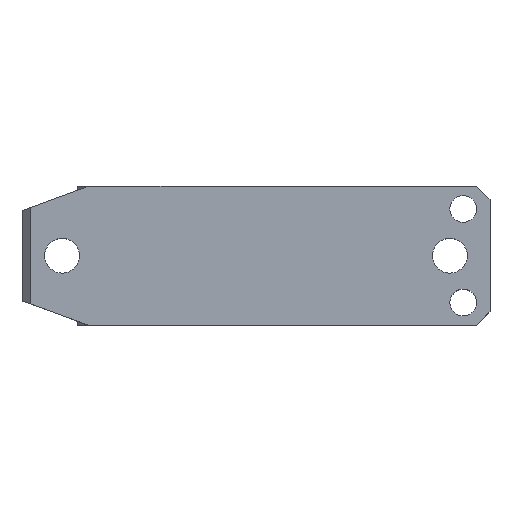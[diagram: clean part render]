
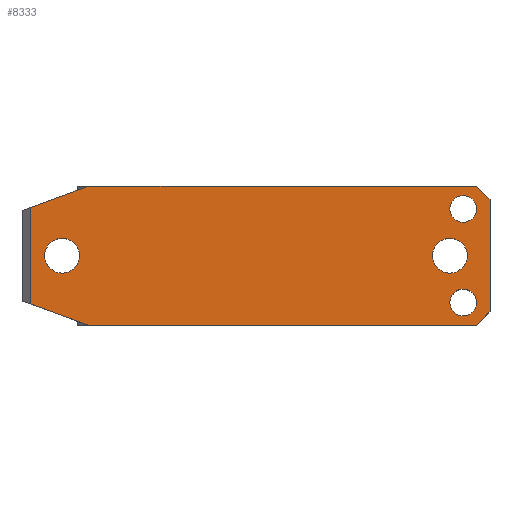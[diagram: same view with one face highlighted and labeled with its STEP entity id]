
A CAD part, top view. The second image highlights one B-rep face of the part: STEP entity #8333.
In plain terms, the highlighted planar face has unit normal (0, 0, 1).
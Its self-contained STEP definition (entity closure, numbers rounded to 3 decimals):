
#19 = AXIS2_PLACEMENT_3D ( 'NONE', #5022, #11493, #5943 ) ;
#110 = VECTOR ( 'NONE', #5182, 1000. ) ;
#216 = CARTESIAN_POINT ( 'NONE',  ( 120., 17.5, 125. ) ) ;
#268 = VERTEX_POINT ( 'NONE', #2168 ) ;
#306 = FACE_BOUND ( 'NONE', #6911, .T. ) ;
#432 = LINE ( 'NONE', #3103, #10012 ) ;
#491 = CARTESIAN_POINT ( 'NONE',  ( -45., -26., 125. ) ) ;
#512 = ORIENTED_EDGE ( 'NONE', *, *, #2707, .T. ) ;
#645 = DIRECTION ( 'NONE',  ( 0., 0., -1. ) ) ;
#647 = EDGE_CURVE ( 'NONE', #2259, #10758, #2572, .T. ) ;
#654 = DIRECTION ( 'NONE',  ( -1., 0., 0. ) ) ;
#784 = AXIS2_PLACEMENT_3D ( 'NONE', #6522, #983, #7454 ) ;
#798 = ORIENTED_EDGE ( 'NONE', *, *, #10223, .F. ) ;
#938 = AXIS2_PLACEMENT_3D ( 'NONE', #3236, #9710, #4153 ) ;
#983 = DIRECTION ( 'NONE',  ( 0., 0., -1. ) ) ;
#1076 = VERTEX_POINT ( 'NONE', #6250 ) ;
#1111 = EDGE_CURVE ( 'NONE', #2904, #6317, #7776, .T. ) ;
#1153 = DIRECTION ( 'NONE',  ( -1., 0., 0. ) ) ;
#1209 = ORIENTED_EDGE ( 'NONE', *, *, #8557, .F. ) ;
#1377 = EDGE_CURVE ( 'NONE', #7714, #10792, #9522, .T. ) ;
#1444 = CARTESIAN_POINT ( 'NONE',  ( 130., 26., 125. ) ) ;
#1495 = AXIS2_PLACEMENT_3D ( 'NONE', #11756, #6208, #654 ) ;
#1511 = CARTESIAN_POINT ( 'NONE',  ( 130., -21., 125. ) ) ;
#1555 = DIRECTION ( 'NONE',  ( 0., 0., -1. ) ) ;
#1866 = ORIENTED_EDGE ( 'NONE', *, *, #2166, .T. ) ;
#2151 = AXIS2_PLACEMENT_3D ( 'NONE', #216, #6675, #1153 ) ;
#2156 = CARTESIAN_POINT ( 'NONE',  ( -23.5, 0., 125. ) ) ;
#2166 = EDGE_CURVE ( 'NONE', #10157, #10005, #3265, .T. ) ;
#2168 = CARTESIAN_POINT ( 'NONE',  ( -36.5, 0., 125. ) ) ;
#2259 = VERTEX_POINT ( 'NONE', #4249 ) ;
#2281 = LINE ( 'NONE', #3849, #4774 ) ;
#2289 = CARTESIAN_POINT ( 'NONE',  ( 125., 26., 125. ) ) ;
#2330 = CARTESIAN_POINT ( 'NONE',  ( -42., 26., 125. ) ) ;
#2572 = LINE ( 'NONE', #491, #110 ) ;
#2601 = EDGE_CURVE ( 'NONE', #10222, #4778, #4720, .T. ) ;
#2602 = VERTEX_POINT ( 'NONE', #6970 ) ;
#2707 = EDGE_CURVE ( 'NONE', #2602, #1076, #10645, .T. ) ;
#2779 = FACE_BOUND ( 'NONE', #9905, .T. ) ;
#2904 = VERTEX_POINT ( 'NONE', #6488 ) ;
#2987 = CARTESIAN_POINT ( 'NONE',  ( 125., 17.5, 125. ) ) ;
#3103 = CARTESIAN_POINT ( 'NONE',  ( -45., -16.901, 125. ) ) ;
#3132 = ORIENTED_EDGE ( 'NONE', *, *, #6917, .T. ) ;
#3236 = CARTESIAN_POINT ( 'NONE',  ( 120., -17.5, 125. ) ) ;
#3265 = LINE ( 'NONE', #2330, #5738 ) ;
#3385 = ORIENTED_EDGE ( 'NONE', *, *, #1377, .T. ) ;
#3469 = AXIS2_PLACEMENT_3D ( 'NONE', #6201, #645, #7114 ) ;
#3512 = VECTOR ( 'NONE', #4801, 1000. ) ;
#3593 = DIRECTION ( 'NONE',  ( 0., 0., -1. ) ) ;
#3599 = CARTESIAN_POINT ( 'NONE',  ( -20., 26., 125. ) ) ;
#3849 = CARTESIAN_POINT ( 'NONE',  ( 125., 26., 125. ) ) ;
#3922 = CARTESIAN_POINT ( 'NONE',  ( 125., -26., 125. ) ) ;
#4028 = DIRECTION ( 'NONE',  ( -0.94, 0.342, 0. ) ) ;
#4153 = DIRECTION ( 'NONE',  ( -1., 0., 0. ) ) ;
#4193 = ORIENTED_EDGE ( 'NONE', *, *, #4212, .T. ) ;
#4212 = EDGE_CURVE ( 'NONE', #1076, #2602, #9739, .T. ) ;
#4249 = CARTESIAN_POINT ( 'NONE',  ( -20., -26., 125. ) ) ;
#4280 = DIRECTION ( 'NONE',  ( -0.707, -0.707, 0. ) ) ;
#4350 = PLANE ( 'NONE',  #11569 ) ;
#4446 = DIRECTION ( 'NONE',  ( 0., 0., -1. ) ) ;
#4720 = LINE ( 'NONE', #1444, #11228 ) ;
#4726 = ORIENTED_EDGE ( 'NONE', *, *, #2601, .F. ) ;
#4774 = VECTOR ( 'NONE', #5710, 1000. ) ;
#4778 = VERTEX_POINT ( 'NONE', #1511 ) ;
#4779 = CARTESIAN_POINT ( 'NONE',  ( 130., 21., 125. ) ) ;
#4784 = CIRCLE ( 'NONE', #19, 6.5 ) ;
#4801 = DIRECTION ( 'NONE',  ( 0.94, 0.342, 0. ) ) ;
#5022 = CARTESIAN_POINT ( 'NONE',  ( -30., 0., 125. ) ) ;
#5108 = VERTEX_POINT ( 'NONE', #3599 ) ;
#5182 = DIRECTION ( 'NONE',  ( 1., 0., 0. ) ) ;
#5249 = FACE_OUTER_BOUND ( 'NONE', #9526, .T. ) ;
#5299 = CARTESIAN_POINT ( 'NONE',  ( -42., -17.993, 125. ) ) ;
#5356 = AXIS2_PLACEMENT_3D ( 'NONE', #9983, #4446, #10916 ) ;
#5435 = CARTESIAN_POINT ( 'NONE',  ( -45., 26., 125. ) ) ;
#5710 = DIRECTION ( 'NONE',  ( 0.707, -0.707, 0. ) ) ;
#5738 = VECTOR ( 'NONE', #8819, 1000. ) ;
#5807 = EDGE_CURVE ( 'NONE', #5108, #6410, #7653, .T. ) ;
#5943 = DIRECTION ( 'NONE',  ( -1., 0., 0. ) ) ;
#6116 = AXIS2_PLACEMENT_3D ( 'NONE', #9135, #3593, #10057 ) ;
#6158 = EDGE_LOOP ( 'NONE', ( #10708, #9594 ) ) ;
#6201 = CARTESIAN_POINT ( 'NONE',  ( 120., 17.5, 125. ) ) ;
#6208 = DIRECTION ( 'NONE',  ( 0., 0., -1. ) ) ;
#6244 = LINE ( 'NONE', #7574, #3512 ) ;
#6250 = CARTESIAN_POINT ( 'NONE',  ( 121.5, 0., 125. ) ) ;
#6317 = VERTEX_POINT ( 'NONE', #11005 ) ;
#6362 = DIRECTION ( 'NONE',  ( -1., 0., 0. ) ) ;
#6410 = VERTEX_POINT ( 'NONE', #2289 ) ;
#6488 = CARTESIAN_POINT ( 'NONE',  ( 125., -17.5, 125. ) ) ;
#6497 = CARTESIAN_POINT ( 'NONE',  ( -42., 17.993, 125. ) ) ;
#6519 = CARTESIAN_POINT ( 'NONE',  ( -45., 26., 125. ) ) ;
#6522 = CARTESIAN_POINT ( 'NONE',  ( -30., 0., 125. ) ) ;
#6612 = ORIENTED_EDGE ( 'NONE', *, *, #11010, .T. ) ;
#6675 = DIRECTION ( 'NONE',  ( 0., 0., -1. ) ) ;
#6837 = ORIENTED_EDGE ( 'NONE', *, *, #647, .T. ) ;
#6911 = EDGE_LOOP ( 'NONE', ( #512, #4193 ) ) ;
#6917 = EDGE_CURVE ( 'NONE', #6317, #2904, #11207, .T. ) ;
#6970 = CARTESIAN_POINT ( 'NONE',  ( 108.5, 0., 125. ) ) ;
#7001 = EDGE_CURVE ( 'NONE', #4778, #10758, #9754, .T. ) ;
#7005 = CARTESIAN_POINT ( 'NONE',  ( 125., -26., 125. ) ) ;
#7101 = CIRCLE ( 'NONE', #784, 6.5 ) ;
#7114 = DIRECTION ( 'NONE',  ( -1., 0., 0. ) ) ;
#7268 = VECTOR ( 'NONE', #4280, 1000. ) ;
#7422 = ORIENTED_EDGE ( 'NONE', *, *, #5807, .F. ) ;
#7454 = DIRECTION ( 'NONE',  ( -1., 0., 0. ) ) ;
#7574 = CARTESIAN_POINT ( 'NONE',  ( -45., 16.901, 125. ) ) ;
#7653 = LINE ( 'NONE', #6519, #9843 ) ;
#7692 = FACE_BOUND ( 'NONE', #9005, .T. ) ;
#7714 = VERTEX_POINT ( 'NONE', #9124 ) ;
#7776 = CIRCLE ( 'NONE', #6116, 5. ) ;
#7905 = DIRECTION ( 'NONE',  ( 0., -1., 0. ) ) ;
#8284 = ORIENTED_EDGE ( 'NONE', *, *, #8470, .F. ) ;
#8333 = ADVANCED_FACE ( 'NONE', ( #7692, #2779, #10470, #306, #5249 ), #4350, .F. ) ;
#8378 = EDGE_CURVE ( 'NONE', #268, #10370, #7101, .T. ) ;
#8470 = EDGE_CURVE ( 'NONE', #10157, #5108, #6244, .T. ) ;
#8557 = EDGE_CURVE ( 'NONE', #2259, #10005, #432, .T. ) ;
#8771 = ORIENTED_EDGE ( 'NONE', *, *, #1111, .T. ) ;
#8819 = DIRECTION ( 'NONE',  ( 0., -1., 0. ) ) ;
#9005 = EDGE_LOOP ( 'NONE', ( #3132, #8771 ) ) ;
#9124 = CARTESIAN_POINT ( 'NONE',  ( 115., 17.5, 125. ) ) ;
#9135 = CARTESIAN_POINT ( 'NONE',  ( 120., -17.5, 125. ) ) ;
#9335 = DIRECTION ( 'NONE',  ( 1., 0., 0. ) ) ;
#9522 = CIRCLE ( 'NONE', #2151, 5. ) ;
#9526 = EDGE_LOOP ( 'NONE', ( #8284, #1866, #1209, #6837, #11186, #4726, #798, #7422 ) ) ;
#9594 = ORIENTED_EDGE ( 'NONE', *, *, #9819, .T. ) ;
#9710 = DIRECTION ( 'NONE',  ( 0., 0., -1. ) ) ;
#9739 = CIRCLE ( 'NONE', #1495, 6.5 ) ;
#9754 = LINE ( 'NONE', #7005, #7268 ) ;
#9819 = EDGE_CURVE ( 'NONE', #10370, #268, #4784, .T. ) ;
#9843 = VECTOR ( 'NONE', #9335, 1000. ) ;
#9905 = EDGE_LOOP ( 'NONE', ( #3385, #6612 ) ) ;
#9983 = CARTESIAN_POINT ( 'NONE',  ( 115., 0., 125. ) ) ;
#10005 = VERTEX_POINT ( 'NONE', #5299 ) ;
#10012 = VECTOR ( 'NONE', #4028, 1000. ) ;
#10057 = DIRECTION ( 'NONE',  ( -1., 0., 0. ) ) ;
#10157 = VERTEX_POINT ( 'NONE', #6497 ) ;
#10222 = VERTEX_POINT ( 'NONE', #4779 ) ;
#10223 = EDGE_CURVE ( 'NONE', #6410, #10222, #2281, .T. ) ;
#10370 = VERTEX_POINT ( 'NONE', #2156 ) ;
#10470 = FACE_BOUND ( 'NONE', #6158, .T. ) ;
#10645 = CIRCLE ( 'NONE', #5356, 6.5 ) ;
#10708 = ORIENTED_EDGE ( 'NONE', *, *, #8378, .T. ) ;
#10758 = VERTEX_POINT ( 'NONE', #3922 ) ;
#10792 = VERTEX_POINT ( 'NONE', #2987 ) ;
#10826 = CIRCLE ( 'NONE', #3469, 5. ) ;
#10916 = DIRECTION ( 'NONE',  ( -1., 0., 0. ) ) ;
#11005 = CARTESIAN_POINT ( 'NONE',  ( 115., -17.5, 125. ) ) ;
#11010 = EDGE_CURVE ( 'NONE', #10792, #7714, #10826, .T. ) ;
#11186 = ORIENTED_EDGE ( 'NONE', *, *, #7001, .F. ) ;
#11207 = CIRCLE ( 'NONE', #938, 5. ) ;
#11228 = VECTOR ( 'NONE', #7905, 1000. ) ;
#11493 = DIRECTION ( 'NONE',  ( 0., 0., -1. ) ) ;
#11569 = AXIS2_PLACEMENT_3D ( 'NONE', #5435, #1555, #6362 ) ;
#11756 = CARTESIAN_POINT ( 'NONE',  ( 115., 0., 125. ) ) ;
